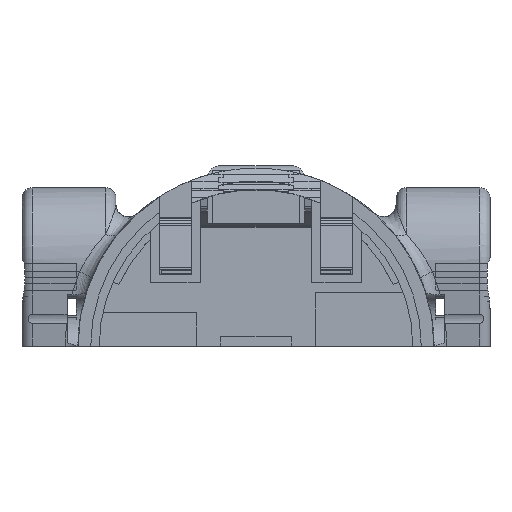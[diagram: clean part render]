
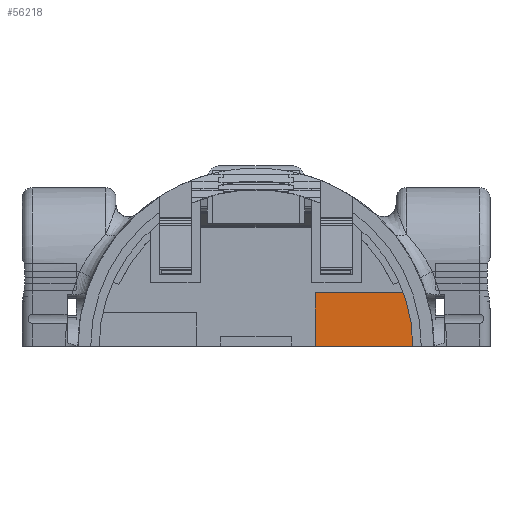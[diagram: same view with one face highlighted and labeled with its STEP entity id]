
A CAD part, left-side view. The second image highlights one B-rep face of the part: STEP entity #56218.
In plain terms, the highlighted planar face has unit normal (-1, 0, 0).
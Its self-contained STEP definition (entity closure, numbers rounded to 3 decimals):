
#21242 = PLANE('',#21243);
#21243 = AXIS2_PLACEMENT_3D('',#21244,#21245,#21246);
#21244 = CARTESIAN_POINT('',(-10.,-60.,0.));
#21245 = DIRECTION('',(0.,0.,1.));
#21246 = DIRECTION('',(1.,0.,-0.));
#23966 = CYLINDRICAL_SURFACE('',#23967,19.5);
#23967 = AXIS2_PLACEMENT_3D('',#23968,#23969,#23970);
#23968 = CARTESIAN_POINT('',(19.,0.,0.));
#23969 = DIRECTION('',(1.,0.,0.));
#23970 = DIRECTION('',(0.,0.,-1.));
#49376 = VERTEX_POINT('',#49377);
#49377 = CARTESIAN_POINT('',(142.45,-19.5,0.));
#49396 = EDGE_CURVE('',#49397,#49376,#49399,.T.);
#49397 = VERTEX_POINT('',#49398);
#49398 = CARTESIAN_POINT('',(142.45,-18.454,6.3));
#49399 = SURFACE_CURVE('',#49400,(#49405,#49411),.PCURVE_S1.);
#49400 = CIRCLE('',#49401,19.5);
#49401 = AXIS2_PLACEMENT_3D('',#49402,#49403,#49404);
#49402 = CARTESIAN_POINT('',(142.45,0.,0.));
#49403 = DIRECTION('',(1.,0.,0.));
#49404 = DIRECTION('',(0.,0.,-1.));
#49405 = PCURVE('',#23966,#49406);
#49406 = DEFINITIONAL_REPRESENTATION('',(#49407),#49410);
#49407 = B_SPLINE_CURVE_WITH_KNOTS('',1,(#49408,#49409),.UNSPECIFIED.,
  .F.,.F.,(2,2),(4.383,5.041),
  .PIECEWISE_BEZIER_KNOTS.);
#49408 = CARTESIAN_POINT('',(4.383,123.45));
#49409 = CARTESIAN_POINT('',(5.041,123.45));
#49410 = ( GEOMETRIC_REPRESENTATION_CONTEXT(2) 
PARAMETRIC_REPRESENTATION_CONTEXT() REPRESENTATION_CONTEXT('2D SPACE',''
  ) );
#49411 = PCURVE('',#49412,#49417);
#49412 = PLANE('',#49413);
#49413 = AXIS2_PLACEMENT_3D('',#49414,#49415,#49416);
#49414 = CARTESIAN_POINT('',(142.45,-21.,-6.3));
#49415 = DIRECTION('',(1.,0.,-0.));
#49416 = DIRECTION('',(0.,0.,1.));
#49417 = DEFINITIONAL_REPRESENTATION('',(#49418),#49422);
#49418 = CIRCLE('',#49419,19.5);
#49419 = AXIS2_PLACEMENT_2D('',#49420,#49421);
#49420 = CARTESIAN_POINT('',(6.3,-21.));
#49421 = DIRECTION('',(-1.,0.));
#49422 = ( GEOMETRIC_REPRESENTATION_CONTEXT(2) 
PARAMETRIC_REPRESENTATION_CONTEXT() REPRESENTATION_CONTEXT('2D SPACE',''
  ) );
#49439 = PLANE('',#49440);
#49440 = AXIS2_PLACEMENT_3D('',#49441,#49442,#49443);
#49441 = CARTESIAN_POINT('',(142.45,-21.,6.3));
#49442 = DIRECTION('',(0.,0.,1.));
#49443 = DIRECTION('',(1.,0.,-0.));
#56218 = ADVANCED_FACE('',(#56219),#49412,.F.);
#56219 = FACE_BOUND('',#56220,.F.);
#56220 = EDGE_LOOP('',(#56221,#56244,#56245,#56266));
#56221 = ORIENTED_EDGE('',*,*,#56222,.F.);
#56222 = EDGE_CURVE('',#49397,#56223,#56225,.T.);
#56223 = VERTEX_POINT('',#56224);
#56224 = CARTESIAN_POINT('',(142.45,-7.,6.3));
#56225 = SURFACE_CURVE('',#56226,(#56230,#56237),.PCURVE_S1.);
#56226 = LINE('',#56227,#56228);
#56227 = CARTESIAN_POINT('',(142.45,-21.,6.3));
#56228 = VECTOR('',#56229,1.);
#56229 = DIRECTION('',(-0.,1.,0.));
#56230 = PCURVE('',#49412,#56231);
#56231 = DEFINITIONAL_REPRESENTATION('',(#56232),#56236);
#56232 = LINE('',#56233,#56234);
#56233 = CARTESIAN_POINT('',(12.6,0.));
#56234 = VECTOR('',#56235,1.);
#56235 = DIRECTION('',(0.,-1.));
#56236 = ( GEOMETRIC_REPRESENTATION_CONTEXT(2) 
PARAMETRIC_REPRESENTATION_CONTEXT() REPRESENTATION_CONTEXT('2D SPACE',''
  ) );
#56237 = PCURVE('',#49439,#56238);
#56238 = DEFINITIONAL_REPRESENTATION('',(#56239),#56243);
#56239 = LINE('',#56240,#56241);
#56240 = CARTESIAN_POINT('',(0.,0.));
#56241 = VECTOR('',#56242,1.);
#56242 = DIRECTION('',(0.,1.));
#56243 = ( GEOMETRIC_REPRESENTATION_CONTEXT(2) 
PARAMETRIC_REPRESENTATION_CONTEXT() REPRESENTATION_CONTEXT('2D SPACE',''
  ) );
#56244 = ORIENTED_EDGE('',*,*,#49396,.T.);
#56245 = ORIENTED_EDGE('',*,*,#56246,.F.);
#56246 = EDGE_CURVE('',#56247,#49376,#56249,.T.);
#56247 = VERTEX_POINT('',#56248);
#56248 = CARTESIAN_POINT('',(142.45,-7.,0.));
#56249 = SURFACE_CURVE('',#56250,(#56254,#56260),.PCURVE_S1.);
#56250 = LINE('',#56251,#56252);
#56251 = CARTESIAN_POINT('',(142.45,-40.5,0.));
#56252 = VECTOR('',#56253,1.);
#56253 = DIRECTION('',(0.,-1.,0.));
#56254 = PCURVE('',#49412,#56255);
#56255 = DEFINITIONAL_REPRESENTATION('',(#56256),#56259);
#56256 = B_SPLINE_CURVE_WITH_KNOTS('',1,(#56257,#56258),.UNSPECIFIED.,
  .F.,.F.,(2,2),(-33.5,-21.),.PIECEWISE_BEZIER_KNOTS.);
#56257 = CARTESIAN_POINT('',(6.3,-14.));
#56258 = CARTESIAN_POINT('',(6.3,-1.5));
#56259 = ( GEOMETRIC_REPRESENTATION_CONTEXT(2) 
PARAMETRIC_REPRESENTATION_CONTEXT() REPRESENTATION_CONTEXT('2D SPACE',''
  ) );
#56260 = PCURVE('',#21242,#56261);
#56261 = DEFINITIONAL_REPRESENTATION('',(#56262),#56265);
#56262 = B_SPLINE_CURVE_WITH_KNOTS('',1,(#56263,#56264),.UNSPECIFIED.,
  .F.,.F.,(2,2),(-33.5,-21.),.PIECEWISE_BEZIER_KNOTS.);
#56263 = CARTESIAN_POINT('',(152.45,53.));
#56264 = CARTESIAN_POINT('',(152.45,40.5));
#56265 = ( GEOMETRIC_REPRESENTATION_CONTEXT(2) 
PARAMETRIC_REPRESENTATION_CONTEXT() REPRESENTATION_CONTEXT('2D SPACE',''
  ) );
#56266 = ORIENTED_EDGE('',*,*,#56267,.T.);
#56267 = EDGE_CURVE('',#56247,#56223,#56268,.T.);
#56268 = SURFACE_CURVE('',#56269,(#56273,#56280),.PCURVE_S1.);
#56269 = LINE('',#56270,#56271);
#56270 = CARTESIAN_POINT('',(142.45,-7.,-6.3));
#56271 = VECTOR('',#56272,1.);
#56272 = DIRECTION('',(0.,0.,1.));
#56273 = PCURVE('',#49412,#56274);
#56274 = DEFINITIONAL_REPRESENTATION('',(#56275),#56279);
#56275 = LINE('',#56276,#56277);
#56276 = CARTESIAN_POINT('',(0.,-14.));
#56277 = VECTOR('',#56278,1.);
#56278 = DIRECTION('',(1.,0.));
#56279 = ( GEOMETRIC_REPRESENTATION_CONTEXT(2) 
PARAMETRIC_REPRESENTATION_CONTEXT() REPRESENTATION_CONTEXT('2D SPACE',''
  ) );
#56280 = PCURVE('',#56281,#56286);
#56281 = PLANE('',#56282);
#56282 = AXIS2_PLACEMENT_3D('',#56283,#56284,#56285);
#56283 = CARTESIAN_POINT('',(142.45,-7.,-6.3));
#56284 = DIRECTION('',(-0.,1.,0.));
#56285 = DIRECTION('',(0.,0.,1.));
#56286 = DEFINITIONAL_REPRESENTATION('',(#56287),#56291);
#56287 = LINE('',#56288,#56289);
#56288 = CARTESIAN_POINT('',(0.,0.));
#56289 = VECTOR('',#56290,1.);
#56290 = DIRECTION('',(1.,0.));
#56291 = ( GEOMETRIC_REPRESENTATION_CONTEXT(2) 
PARAMETRIC_REPRESENTATION_CONTEXT() REPRESENTATION_CONTEXT('2D SPACE',''
  ) );
